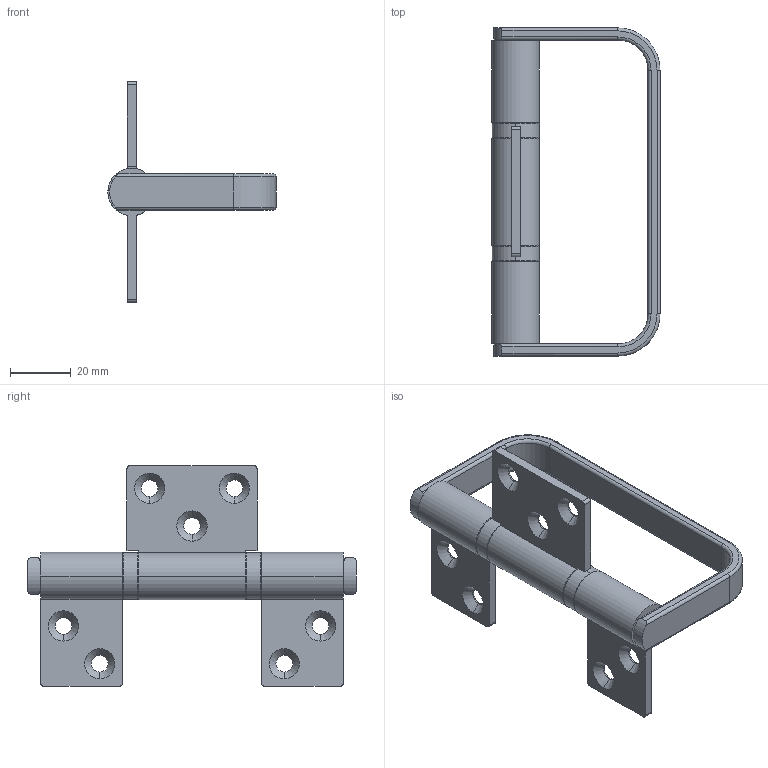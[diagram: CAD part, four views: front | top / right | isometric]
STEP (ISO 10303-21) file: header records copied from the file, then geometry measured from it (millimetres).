
FILE_DESCRIPTION (( 'STEP AP214' ), '1' );
FILE_NAME ('E3 Straight Hinge with Handle - Open.STEP', '2024-06-26T04:17:18', ( '' ), ( '' ), 'SwSTEP 2.0', 'SolidWorks 2023', '' );
FILE_SCHEMA (( 'AUTOMOTIVE_DESIGN' ));
Length unit declared in the file: millimetre
Products named in the file (5): E3 Straight Flap Middle^E3 Straight Hinge with handle; E3 Straight Hinge with Handle - Open; E3 Straight Flap Outer A^E3 Straight Hinge with handle; E3 Straight Flap Outer B^E3 Straight Hinge with handle; E3 Hinge Pin with Handle^E3 Straight Hinge with handle
Assembly tree (4 placements, depth 2):
  E3 Straight Hinge with Handle - Open
    E3 Hinge Pin with Handle^E3 Straight Hinge with handle
    E3 Straight Flap Outer B^E3 Straight Hinge with handle
    E3 Straight Flap Outer A^E3 Straight Hinge with handle
    E3 Straight Flap Middle^E3 Straight Hinge with handle
Bounding box: 55.6 x 108.5 x 73 mm (x, y, z)
Volume: 35815.7 mm3; surface area: 23491.3 mm2
Topology: 4 solids, 4 shells, 124 faces, 298 edges, 186 vertices
Faces by surface type: cylinder 63, plane 31, cone 22, torus 8
Entity records: 3880 total; most frequent: DIRECTION 700, CARTESIAN_POINT 687, ORIENTED_EDGE 596, EDGE_CURVE 298, AXIS2_PLACEMENT_3D 279, VERTEX_POINT 186, EDGE_LOOP 150, CIRCLE 148
